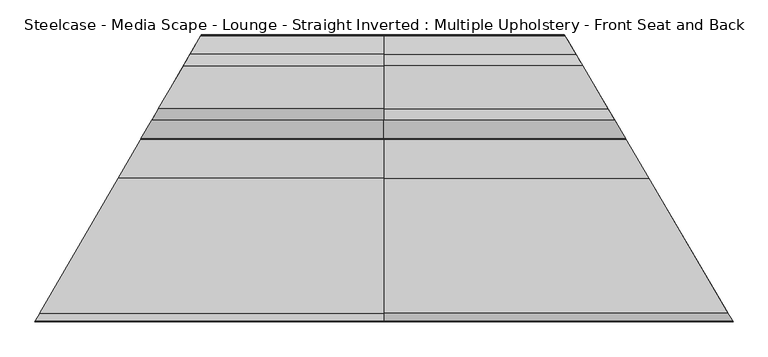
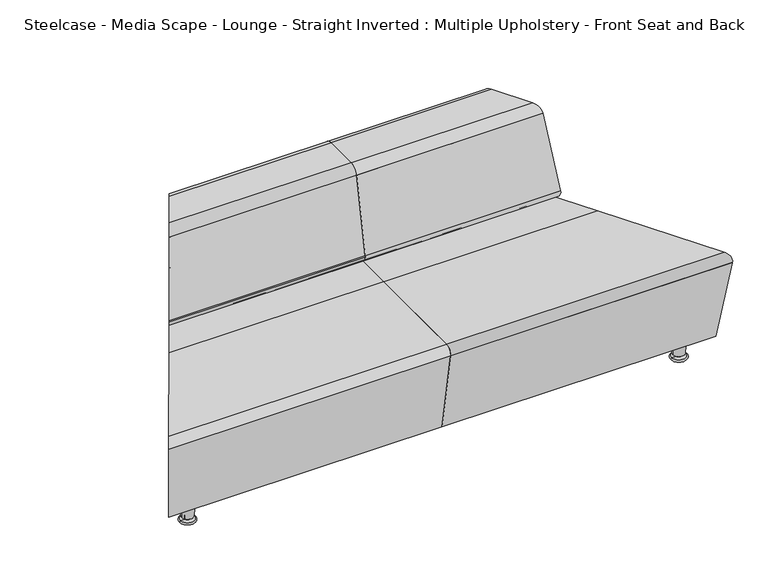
"""IFC4 building model written with IfcOpenShell, lengths in millimetres: furniture geometry, Steelcase - Media Scape - Lounge - Straight Inverted : Multiple Upholstery - Front Seat and Back."""

from ifc_helpers import new_model, si_unit, point, frame, origin, place, context, project, spatial, polyline, circle_curve, ellipse_curve, trimmed, source, transform, mapped, element, save
from ifc_brep_helpers import plane_surface, cylinder_surface, revolved_surface, advanced_brep


def steelcase_media_scape_lounge_straight_inverted_multiple_55383deb(model_context):
    return source(origin(), model_context, "Body", "AdvancedBrep", [
        advanced_brep(
        [(14.5961497, 25.1457946, 404.6983065), (242.0061771, 416.9525328, 404.6983065), (469.4162044, 808.759271, 404.6983065), (483.9506227, 833.8007481, 375.0457281), (0.0617315, 0.1043175, 375.0457281), (1014.6953148, 416.9525328, 404.6983065), (1014.6953148, 25.1457946, 404.6983065), (1014.6953148, 0.1043175, 375.0457281), (1014.6953148, 833.8007481, 375.0457281), (1014.6953148, 808.759271, 404.6983065)],
        [
            (0, 1),
            (1, 2),
            (2, 3, ellipse_curve(frame((469.4162044, 808.759271, 379.2983065), z_axis=(-0.8648758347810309, 0.5019858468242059, 0.0), x_axis=(0.5019858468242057, 0.864875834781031, 0.0)), 29.3683775, 25.4)),
            (3, 4),
            (4, 0, ellipse_curve(frame((14.5961497, 25.1457946, 379.2983065), z_axis=(-0.8648758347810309, 0.5019858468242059, 0.0), x_axis=(0.5019858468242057, 0.864875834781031, 0.0)), 29.3683775, 25.4)),
            (5, 6),
            (6, 7, circle_curve(frame((1014.6953148, 25.1457946, 379.2983065), z_axis=(1.0, 0.0, 0.0), x_axis=(0.0, -1.0, 0.0)), 25.4)),
            (7, 8),
            (8, 9, circle_curve(frame((1014.6953148, 808.759271, 379.2983065), z_axis=(1.0, 0.0, 0.0), x_axis=(0.0, 1.0, 0.0)), 25.4)),
            (9, 5),
            (5, 1),
            (0, 6),
            (4, 7),
            (3, 8),
            (2, 9),
        ],
        [
            plane_surface(frame((-97.2912411, -167.6259759, 763.7516668), z_axis=(-0.8648758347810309, 0.5019858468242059, 0.0), x_axis=(0.0, 0.0, -1.0))),
            plane_surface(frame((1014.6953148, -57.5722485, 404.6983065), z_axis=(1.0, 0.0, 0.0), x_axis=(0.0, -1.0, 0.0))),
            plane_surface(frame((1014.6953148, 416.9525328, 404.6983065), z_axis=(0.0, 0.0, 1.0), x_axis=(-1.0, 0.0, 0.0))),
            cylinder_surface(frame((-12.0270557, 25.1457946, 379.2983065), z_axis=(1.0, 0.0, 0.0), x_axis=(0.0, -1.0, 0.0)), 25.4),
            plane_surface(frame((1014.6953148, 0.1043175, 375.0457281), z_axis=(0.0, 0.0, -1.0), x_axis=(-1.0, 0.0, 0.0))),
            cylinder_surface(frame((-12.0270557, 808.759271, 379.2983065), z_axis=(1.0, 0.0, 0.0), x_axis=(0.0, 1.0, 0.0)), 25.4),
            plane_surface(frame((1014.6953148, 808.759271, 404.6983065), z_axis=(0.0, 0.0, 1.0), x_axis=(-1.0, 0.0, 0.0))),
        ],
        [
            (0, [[1, 2, 3, 4, 5]]),
            (1, [[6, 7, 8, 9, 10]]),
            (2, [[-6, 11, -1, 12]]),
            (3, [[-7, -12, -5, 13]]),
            (4, [[-8, -13, -4, 14]]),
            (5, [[-9, -14, -3, 15]]),
            (6, [[-10, -15, -2, -11]]),
        ],
    ),
        advanced_brep(
        [(1014.6953148, 556.3973372, 404.1903065), (1014.6953148, 531.4780681, 434.5086426), (1014.6953148, 585.386659, 707.6422134), (1014.6953148, 586.4222592, 707.6422134), (1014.6953148, 532.5050909, 434.4651844), (1014.6953148, 556.5535694, 405.2063065), (1014.6953148, 807.0353985, 405.2063065), (1014.6953148, 807.0353985, 404.1903065), (1556.1557205, 807.0353985, 404.1903065), (1703.5521515, 556.3973372, 404.1903065), (1556.1557205, 807.0353985, 405.2063065), (1703.4602737, 556.5535694, 405.2063065), (1717.602818, 532.5050909, 434.4651844), (1685.8949516, 586.4222592, 707.6422134), (1686.5039723, 585.386659, 707.6422134), (1718.2067945, 531.4780681, 434.5086426)],
        [
            (0, 1, circle_curve(frame((1014.6953148, 556.3973372, 429.5903065), z_axis=(-1.0, 0.0, 0.0), x_axis=(0.0, -1.0, 0.0)), 25.4)),
            (1, 2),
            (2, 3),
            (3, 4),
            (4, 5, circle_curve(frame((1014.6953148, 556.5535694, 429.718717), z_axis=(1.0, 0.0, 0.0), x_axis=(0.0, -1.0, 0.0)), 24.5124105)),
            (5, 6),
            (6, 7),
            (7, 0),
            (7, 8),
            (8, 9),
            (9, 0),
            (6, 10),
            (10, 8),
            (5, 11),
            (11, 10),
            (4, 12),
            (12, 11, ellipse_curve(frame((1703.4602737, 556.5535694, 429.718717), z_axis=(0.8619909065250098, 0.5069237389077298, 0.0), x_axis=(-0.5069237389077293, 0.8619909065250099, 0.0)), 28.4369711, 24.5124105)),
            (3, 13),
            (13, 12),
            (2, 14),
            (14, 13),
            (1, 15),
            (15, 14),
            (9, 15, ellipse_curve(frame((1703.5521515, 556.3973372, 429.5903065), z_axis=(-0.8619909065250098, -0.5069237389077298, 0.0), x_axis=(0.5069237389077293, -0.8619909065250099, 0.0)), 29.4666682, 25.4)),
        ],
        [
            plane_surface(frame((1014.6953148, 852.9550656, 404.1903065), z_axis=(-1.0, 0.0, 0.0), x_axis=(0.0, -1.0, 0.0))),
            plane_surface(frame((2041.4176852, 556.3973372, 404.1903065), z_axis=(0.0, 0.0, -1.0), x_axis=(-1.0, 0.0, 0.0))),
            plane_surface(frame((2041.4176852, 807.0353985, 404.1903065), z_axis=(0.0, 1.0, 0.0), x_axis=(-1.0, 0.0, 0.0))),
            plane_surface(frame((2041.4176852, 807.0353985, 405.2063065), z_axis=(0.0, 0.0, 1.0), x_axis=(-1.0, 0.0, 0.0))),
            revolved_surface(polyline([(1014.6953148, 532.0411589, 429.718717), (1717.875649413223, 532.0411589, 429.718717)]), (1014.6953148, 556.5535694, 429.718717), (-1.0, 0.0, 0.0)),
            plane_surface(frame((2041.4176852, 532.5050909, 434.4651844), z_axis=(0.0, 0.9810735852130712, -0.19363527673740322), x_axis=(-1.0, 0.0, 0.0))),
            plane_surface(frame((2041.4176852, 586.4222592, 707.6422134), z_axis=(0.0, 0.0, 1.0), x_axis=(-1.0, 0.0, 0.0))),
            plane_surface(frame((2041.4176852, 585.386659, 707.6422134), z_axis=(0.0, -0.9810735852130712, 0.1936352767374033), x_axis=(-1.0, 0.0, 0.0))),
            cylinder_surface(frame((1014.6953148, 556.3973372, 429.5903065), z_axis=(1.0, 0.0, 0.0), x_axis=(0.0, -1.0, 0.0)), 25.4),
            plane_surface(frame((1493.0162317, 914.4, 763.7516668), z_axis=(0.8619909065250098, 0.5069237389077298, 0.0), x_axis=(0.0, 0.0, -1.0))),
        ],
        [
            (0, [[1, 2, 3, 4, 5, 6, 7, 8]]),
            (1, [[-8, 9, 10, 11]]),
            (2, [[-7, 12, 13, -9]]),
            (3, [[-6, 14, 15, -12]]),
            (4, [[-5, 16, 17, -14]]),
            (5, [[-4, 18, 19, -16]]),
            (6, [[-3, 20, 21, -18]]),
            (7, [[-2, 22, 23, -20]]),
            (8, [[-1, -11, 24, -22]]),
            (9, [[-10, -13, -15, -17, -19, -21, -23, -24]]),
        ],
    ),
        advanced_brep(
        [(1014.6953148, 744.618392, 735.1171206), (1014.6953148, 619.0683436, 735.1171206), (1014.6953148, 585.640659, 707.6422134), (1014.6953148, 531.7822003, 434.7626426), (1014.6953148, 556.7014693, 404.4443065), (1014.6953148, 806.9852663, 404.4443065), (1014.6953148, 831.9045354, 434.7626426), (1014.6953148, 778.0460766, 707.6422134), (451.5898434, 778.0460766, 707.6422134), (432.1879548, 744.618392, 735.1171206), (482.8500347, 831.9045354, 434.7626426), (468.3865477, 806.9852663, 404.4443065), (323.1183847, 556.7014693, 404.4443065), (308.6548977, 531.7822003, 434.7626426), (339.9150889, 585.640659, 707.6422134), (359.3169775, 619.0683436, 735.1171206)],
        [
            (0, 1),
            (1, 2, circle_curve(frame((1014.6953148, 619.0683436, 701.0445646), z_axis=(1.0, 0.0, 0.0), x_axis=(0.0, -1.0, 0.0)), 34.0725559)),
            (2, 3),
            (3, 4, circle_curve(frame((1014.6953148, 556.7014693, 429.8443065), z_axis=(1.0, 0.0, 0.0), x_axis=(0.0, -1.0, 0.0)), 25.4)),
            (4, 5),
            (5, 6, circle_curve(frame((1014.6953148, 806.9852663, 429.8443065), z_axis=(1.0, 0.0, 0.0), x_axis=(0.0, 1.0, 0.0)), 25.4)),
            (6, 7),
            (7, 0, circle_curve(frame((1014.6953148, 744.618392, 701.0445646), z_axis=(1.0, 0.0, 0.0), x_axis=(0.0, 1.0, 0.0)), 34.0725559)),
            (7, 8),
            (8, 9, ellipse_curve(frame((432.1879548, 744.618392, 701.0445646), z_axis=(0.8648758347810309, -0.501985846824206, 0.0), x_axis=(-0.5019858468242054, -0.864875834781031, 0.0)), 39.3958931, 34.0725559)),
            (9, 0),
            (6, 10),
            (10, 8),
            (5, 11),
            (11, 10, ellipse_curve(frame((468.3865477, 806.9852663, 429.8443065), z_axis=(0.8648758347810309, -0.501985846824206, 0.0), x_axis=(-0.5019858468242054, -0.864875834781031, 0.0)), 29.3683775, 25.4)),
            (4, 12),
            (12, 11),
            (3, 13),
            (13, 12, ellipse_curve(frame((323.1183847, 556.7014693, 429.8443065), z_axis=(0.8648758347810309, -0.501985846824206, 0.0), x_axis=(-0.5019858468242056, -0.864875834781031, 0.0)), 29.3683775, 25.4)),
            (2, 14),
            (14, 13),
            (1, 15),
            (15, 14, ellipse_curve(frame((359.3169775, 619.0683436, 701.0445646), z_axis=(0.8648758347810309, -0.501985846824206, 0.0), x_axis=(-0.5019858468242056, -0.864875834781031, 0.0)), 39.3958931, 34.0725559)),
            (9, 15),
        ],
        [
            plane_surface(frame((1014.6953148, 778.690948, 701.0445646), z_axis=(1.0, 0.0, 0.0), x_axis=(0.0, 0.0, 1.0))),
            cylinder_surface(frame((1014.6953148, 744.618392, 701.0445646), z_axis=(-1.0, 0.0, 0.0), x_axis=(0.0, 1.0, 0.0)), 34.0725559),
            plane_surface(frame((0.0, 778.0460766, 707.6422134), z_axis=(0.0, 0.9810735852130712, 0.19363527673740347), x_axis=(1.0, 0.0, 0.0))),
            cylinder_surface(frame((1014.6953148, 806.9852663, 429.8443065), z_axis=(-1.0, 0.0, 0.0), x_axis=(0.0, 1.0, 0.0)), 25.4),
            plane_surface(frame((0.0, 806.9852663, 404.4443065), z_axis=(0.0, 0.0, -1.0), x_axis=(1.0, 0.0, 0.0))),
            cylinder_surface(frame((1014.6953148, 556.7014693, 429.8443065), z_axis=(-1.0, 0.0, 0.0), x_axis=(0.0, -1.0, 0.0)), 25.4),
            plane_surface(frame((0.0, 531.7822003, 434.7626426), z_axis=(0.0, -0.9810735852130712, 0.19363527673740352), x_axis=(1.0, 0.0, 0.0))),
            cylinder_surface(frame((1014.6953148, 619.0683436, 701.0445646), z_axis=(-1.0, 0.0, 0.0), x_axis=(0.0, -1.0, 0.0)), 34.0725559),
            plane_surface(frame((0.0, 619.0683436, 735.1171206), z_axis=(0.0, 0.0, 1.0), x_axis=(1.0, 0.0, 0.0))),
            plane_surface(frame((-97.2912411, -167.6259759, 735.3711206), z_axis=(-0.8648758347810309, 0.501985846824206, 0.0), x_axis=(0.0, 0.0, -1.0))),
        ],
        [
            (0, [[1, 2, 3, 4, 5, 6, 7, 8]]),
            (1, [[-8, 9, 10, 11]]),
            (2, [[-7, 12, 13, -9]]),
            (3, [[-6, 14, 15, -12]]),
            (4, [[-5, 16, 17, -14]]),
            (5, [[-4, 18, 19, -16]]),
            (6, [[-3, 20, 21, -18]]),
            (7, [[-2, 22, 23, -20]]),
            (8, [[-1, -11, 24, -22]]),
            (9, [[-10, -13, -15, -17, -19, -21, -23, -24]]),
        ],
    ),
        advanced_brep(
        [(1014.6953148, 556.3973372, 404.1903065), (1014.6953148, 807.0353985, 404.1903065), (1014.6953148, 807.0353985, 405.2063065), (1014.6953148, 556.5535694, 405.2063065), (1014.6953148, 532.5050909, 434.4651844), (1014.6953148, 586.4222592, 707.6422134), (1014.6953148, 585.386659, 707.6422134), (1014.6953148, 531.4780681, 434.5086426), (308.4783752, 531.4780681, 434.5086426), (322.9418621, 556.3973372, 404.1903065), (339.7676638, 585.386659, 707.6422134), (340.3687405, 586.4222592, 707.6422134), (309.0744734, 532.5050909, 434.4651844), (323.0325415, 556.5535694, 405.2063065), (468.4156451, 807.0353985, 405.2063065), (468.4156451, 807.0353985, 404.1903065)],
        [
            (0, 1),
            (1, 2),
            (2, 3),
            (3, 4, circle_curve(frame((1014.6953148, 556.5535694, 429.718717), z_axis=(-1.0, 0.0, 0.0), x_axis=(0.0, -1.0, 0.0)), 24.5124105)),
            (4, 5),
            (5, 6),
            (6, 7),
            (7, 0, circle_curve(frame((1014.6953148, 556.3973372, 429.5903065), z_axis=(1.0, 0.0, 0.0), x_axis=(0.0, -1.0, 0.0)), 25.4)),
            (7, 8),
            (8, 9, ellipse_curve(frame((322.9418621, 556.3973372, 429.5903065), z_axis=(0.8648758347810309, -0.5019858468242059, 0.0), x_axis=(-0.5019858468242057, -0.864875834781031, 0.0)), 29.3683775, 25.4)),
            (9, 0),
            (6, 10),
            (10, 8),
            (5, 11),
            (11, 10),
            (4, 12),
            (12, 11),
            (3, 13),
            (13, 12, ellipse_curve(frame((323.0325415, 556.5535694, 429.718717), z_axis=(-0.8648758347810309, 0.5019858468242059, 0.0), x_axis=(0.5019858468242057, 0.864875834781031, 0.0)), 28.3421152, 24.5124105)),
            (2, 14),
            (14, 13),
            (1, 15),
            (15, 14),
            (9, 15),
        ],
        [
            plane_surface(frame((1014.6953148, 530.9973372, 429.5903065), z_axis=(1.0, 0.0, 0.0), x_axis=(0.0, 0.0, -1.0))),
            cylinder_surface(frame((1014.6953148, 556.3973372, 429.5903065), z_axis=(-1.0, 0.0, 0.0), x_axis=(0.0, -1.0, 0.0)), 25.4),
            plane_surface(frame((0.0, 531.4780681, 434.5086426), z_axis=(0.0, -0.9810735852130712, 0.1936352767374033), x_axis=(1.0, 0.0, 0.0))),
            plane_surface(frame((0.0, 585.386659, 707.6422134), z_axis=(0.0, 0.0, 1.0), x_axis=(1.0, 0.0, 0.0))),
            plane_surface(frame((0.0, 586.4222592, 707.6422134), z_axis=(0.0, 0.9810735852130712, -0.19363527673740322), x_axis=(1.0, 0.0, 0.0))),
            revolved_surface(polyline([(1014.6953148, 532.0411589, 429.718717), (308.80520080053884, 532.0411589, 429.718717)]), (1014.6953148, 556.5535694, 429.718717), (1.0, 0.0, 0.0)),
            plane_surface(frame((0.0, 556.5535694, 405.2063065), z_axis=(0.0, 0.0, 1.0), x_axis=(1.0, 0.0, 0.0))),
            plane_surface(frame((0.0, 807.0353985, 405.2063065), z_axis=(0.0, 1.0, 0.0), x_axis=(1.0, 0.0, 0.0))),
            plane_surface(frame((0.0, 807.0353985, 404.1903065), z_axis=(0.0, 0.0, -1.0), x_axis=(1.0, 0.0, 0.0))),
            plane_surface(frame((-97.2912411, -167.6259759, 763.7516668), z_axis=(-0.8648758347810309, 0.5019858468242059, 0.0), x_axis=(0.0, 0.0, -1.0))),
        ],
        [
            (0, [[1, 2, 3, 4, 5, 6, 7, 8]]),
            (1, [[-8, 9, 10, 11]]),
            (2, [[-7, 12, 13, -9]]),
            (3, [[-6, 14, 15, -12]]),
            (4, [[-5, 16, 17, -14]]),
            (5, [[-4, 18, 19, -16]]),
            (6, [[-3, 20, 21, -18]]),
            (7, [[-2, 22, 23, -20]]),
            (8, [[-1, -11, 24, -22]]),
            (9, [[-10, -13, -15, -17, -19, -21, -23, -24]]),
        ],
    ),
        advanced_brep(
        [(1014.6953148, 416.9525328, 404.6983065), (1014.6953148, 808.759271, 404.6983065), (1014.6953148, 833.8007481, 375.0457281), (1014.6953148, 0.1043175, 375.0457281), (1014.6953148, 25.1457946, 404.6983065), (1785.5575196, 416.9525328, 404.6983065), (1555.1419373, 808.759271, 404.6983065), (1540.4154256, 833.8007481, 375.0457281), (2030.6996136, 0.1043175, 375.0457281), (2015.9731019, 25.1457946, 404.6983065)],
        [
            (0, 1),
            (1, 2, circle_curve(frame((1014.6953148, 808.759271, 379.2983065), z_axis=(-1.0, 0.0, 0.0), x_axis=(0.0, 1.0, 0.0)), 25.4)),
            (2, 3),
            (3, 4, circle_curve(frame((1014.6953148, 25.1457946, 379.2983065), z_axis=(-1.0, 0.0, 0.0), x_axis=(0.0, -1.0, 0.0)), 25.4)),
            (4, 0),
            (0, 5),
            (5, 6),
            (6, 1),
            (6, 7, ellipse_curve(frame((1555.1419373, 808.759271, 379.2983065), z_axis=(-0.8619909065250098, -0.5069237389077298, 0.0), x_axis=(-0.5069237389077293, 0.86199090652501, 0.0)), 29.4666682, 25.4)),
            (7, 2),
            (7, 8),
            (8, 3),
            (8, 9, ellipse_curve(frame((2015.9731019, 25.1457946, 379.2983065), z_axis=(-0.8619909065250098, -0.5069237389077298, 0.0), x_axis=(-0.5069237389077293, 0.86199090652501, 0.0)), 29.4666682, 25.4)),
            (9, 4),
            (9, 5),
        ],
        [
            plane_surface(frame((1014.6953148, 891.4773142, 404.6983065), z_axis=(-1.0, 0.0, 0.0), x_axis=(0.0, 1.0, 0.0))),
            plane_surface(frame((1014.6953148, 416.9525328, 404.6983065), z_axis=(0.0, 0.0, 1.0), x_axis=(1.0, 0.0, 0.0))),
            cylinder_surface(frame((2041.4176852, 808.759271, 379.2983065), z_axis=(-1.0, 0.0, 0.0), x_axis=(0.0, 1.0, 0.0)), 25.4),
            plane_surface(frame((1014.6953148, 833.8007481, 375.0457281), z_axis=(0.0, 0.0, -1.0), x_axis=(1.0, 0.0, 0.0))),
            cylinder_surface(frame((2041.4176852, 25.1457946, 379.2983065), z_axis=(-1.0, 0.0, 0.0), x_axis=(0.0, -1.0, 0.0)), 25.4),
            plane_surface(frame((1014.6953148, 25.1457946, 404.6983065), z_axis=(0.0, 0.0, 1.0), x_axis=(1.0, 0.0, 0.0))),
            plane_surface(frame((1493.0162317, 914.4, 763.7516668), z_axis=(0.8619909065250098, 0.5069237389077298, 0.0), x_axis=(0.0, 0.0, -1.0))),
        ],
        [
            (0, [[1, 2, 3, 4, 5]]),
            (1, [[-1, 6, 7, 8]]),
            (2, [[-2, -8, 9, 10]]),
            (3, [[-3, -10, 11, 12]]),
            (4, [[-4, -12, 13, 14]]),
            (5, [[-5, -14, 15, -6]]),
            (6, [[-7, -15, -13, -11, -9]]),
        ],
    ),
        advanced_brep(
        [(1014.6953148, 744.618392, 735.1171206), (1014.6953148, 778.0460766, 707.6422134), (1014.6953148, 831.9045354, 434.7626426), (1014.6953148, 806.9852663, 404.4443065), (1014.6953148, 556.7014693, 404.4443065), (1014.6953148, 531.7822003, 434.7626426), (1014.6953148, 585.640659, 707.6422134), (1014.6953148, 619.0683436, 735.1171206), (1666.696286, 619.0683436, 735.1171206), (1592.8622125, 744.618392, 735.1171206), (1686.3545988, 585.640659, 707.6422134), (1718.027939, 531.7822003, 434.7626426), (1703.373296, 556.7014693, 404.4443065), (1556.1852025, 806.9852663, 404.4443065), (1541.5305594, 831.9045354, 434.7626426), (1573.2038997, 778.0460766, 707.6422134)],
        [
            (0, 1, circle_curve(frame((1014.6953148, 744.618392, 701.0445646), z_axis=(-1.0, 0.0, 0.0), x_axis=(0.0, 1.0, 0.0)), 34.0725559)),
            (1, 2),
            (2, 3, circle_curve(frame((1014.6953148, 806.9852663, 429.8443065), z_axis=(-1.0, 0.0, 0.0), x_axis=(0.0, 1.0, 0.0)), 25.4)),
            (3, 4),
            (4, 5, circle_curve(frame((1014.6953148, 556.7014693, 429.8443065), z_axis=(-1.0, 0.0, 0.0), x_axis=(0.0, -1.0, 0.0)), 25.4)),
            (5, 6),
            (6, 7, circle_curve(frame((1014.6953148, 619.0683436, 701.0445646), z_axis=(-1.0, 0.0, 0.0), x_axis=(0.0, -1.0, 0.0)), 34.0725559)),
            (7, 0),
            (7, 8),
            (8, 9),
            (9, 0),
            (6, 10),
            (10, 8, ellipse_curve(frame((1666.696286, 619.0683436, 701.0445646), z_axis=(-0.8619909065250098, -0.5069237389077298, 0.0), x_axis=(0.5069237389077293, -0.8619909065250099, 0.0)), 39.5277441, 34.0725559)),
            (5, 11),
            (11, 10),
            (4, 12),
            (12, 11, ellipse_curve(frame((1703.373296, 556.7014693, 429.8443065), z_axis=(-0.8619909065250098, -0.5069237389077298, 0.0), x_axis=(0.5069237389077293, -0.8619909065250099, 0.0)), 29.4666682, 25.4)),
            (3, 13),
            (13, 12),
            (2, 14),
            (14, 13, ellipse_curve(frame((1556.1852025, 806.9852663, 429.8443065), z_axis=(-0.8619909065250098, -0.5069237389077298, 0.0), x_axis=(0.5069237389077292, -0.8619909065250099, 0.0)), 29.4666682, 25.4)),
            (1, 15),
            (15, 14),
            (9, 15, ellipse_curve(frame((1592.8622125, 744.618392, 701.0445646), z_axis=(-0.8619909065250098, -0.5069237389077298, 0.0), x_axis=(0.5069237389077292, -0.8619909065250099, 0.0)), 39.5277441, 34.0725559)),
        ],
        [
            plane_surface(frame((1014.6953148, 567.2050656, 735.1171206), z_axis=(-1.0, 0.0, 0.0), x_axis=(0.0, 1.0, 0.0))),
            plane_surface(frame((2041.4176852, 744.618392, 735.1171206), z_axis=(0.0, 0.0, 1.0), x_axis=(-1.0, 0.0, 0.0))),
            cylinder_surface(frame((1014.6953148, 619.0683436, 701.0445646), z_axis=(1.0, 0.0, 0.0), x_axis=(0.0, -1.0, 0.0)), 34.0725559),
            plane_surface(frame((2041.4176852, 585.640659, 707.6422134), z_axis=(0.0, -0.9810735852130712, 0.19363527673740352), x_axis=(-1.0, 0.0, 0.0))),
            cylinder_surface(frame((1014.6953148, 556.7014693, 429.8443065), z_axis=(1.0, 0.0, 0.0), x_axis=(0.0, -1.0, 0.0)), 25.4),
            plane_surface(frame((2041.4176852, 556.7014693, 404.4443065), z_axis=(0.0, 0.0, -1.0), x_axis=(-1.0, 0.0, 0.0))),
            cylinder_surface(frame((1014.6953148, 806.9852663, 429.8443065), z_axis=(1.0, 0.0, 0.0), x_axis=(0.0, 1.0, 0.0)), 25.4),
            plane_surface(frame((2041.4176852, 831.9045354, 434.7626426), z_axis=(0.0, 0.9810735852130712, 0.19363527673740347), x_axis=(-1.0, 0.0, 0.0))),
            cylinder_surface(frame((1014.6953148, 744.618392, 701.0445646), z_axis=(1.0, 0.0, 0.0), x_axis=(0.0, 1.0, 0.0)), 34.0725559),
            plane_surface(frame((1493.0162317, 914.4, 763.7516668), z_axis=(0.8619909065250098, 0.5069237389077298, 0.0), x_axis=(0.0, 0.0, -1.0))),
        ],
        [
            (0, [[1, 2, 3, 4, 5, 6, 7, 8]]),
            (1, [[-8, 9, 10, 11]]),
            (2, [[-7, 12, 13, -9]]),
            (3, [[-6, 14, 15, -12]]),
            (4, [[-5, 16, 17, -14]]),
            (5, [[-4, 18, 19, -16]]),
            (6, [[-3, 20, 21, -18]]),
            (7, [[-2, 22, 23, -20]]),
            (8, [[-1, -11, 24, -22]]),
            (9, [[-10, -13, -15, -17, -19, -21, -23, -24]]),
        ],
    ),
        advanced_brep(
        [(1014.6953148, 416.9525328, 404.4443065), (1014.6953148, 808.4584998, 404.4443065), (1014.6953148, 833.4999769, 374.7917281), (1014.6953148, 782.5280351, 74.6414242), (1014.6953148, 416.9525328, 74.6414242), (1014.6953148, 51.3770305, 74.6414242), (1014.6953148, 0.4050887, 374.7917281), (1014.6953148, 25.4465658, 404.4443065), (1785.5575196, 416.9525328, 404.4443065), (1555.3188163, 808.4584998, 404.4443065), (1540.5923045, 833.4999769, 374.7917281), (1570.5681281, 782.5280351, 74.6414242), (1785.5575196, 416.9525328, 74.6414242), (2000.5469111, 51.3770305, 74.6414242), (2030.5227347, 0.4050887, 374.7917281), (2015.7962229, 25.4465658, 404.4443065)],
        [
            (0, 1),
            (1, 2, circle_curve(frame((1014.6953148, 808.4584998, 379.0443065), z_axis=(-1.0, 0.0, 0.0), x_axis=(0.0, 1.0, 0.0)), 25.4)),
            (2, 3),
            (3, 4),
            (4, 5),
            (5, 6),
            (6, 7, circle_curve(frame((1014.6953148, 25.4465658, 379.0443065), z_axis=(-1.0, 0.0, 0.0), x_axis=(0.0, -1.0, 0.0)), 25.4)),
            (7, 0),
            (0, 8),
            (8, 9),
            (9, 1),
            (9, 10, ellipse_curve(frame((1555.3188163, 808.4584998, 379.0443065), z_axis=(-0.8619909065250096, -0.5069237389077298, 0.0), x_axis=(-0.5069237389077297, 0.8619909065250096, 0.0)), 29.4666682, 25.4)),
            (10, 2),
            (10, 11),
            (11, 3),
            (11, 12),
            (12, 4),
            (12, 13),
            (13, 5),
            (13, 14),
            (14, 6),
            (14, 15, ellipse_curve(frame((2015.7962229, 25.4465658, 379.0443065), z_axis=(-0.8619909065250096, -0.5069237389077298, 0.0), x_axis=(-0.5069237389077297, 0.8619909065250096, 0.0)), 29.4666682, 25.4)),
            (15, 7),
            (15, 8),
        ],
        [
            plane_surface(frame((1014.6953148, 891.4773142, 404.4443065), z_axis=(-1.0, 0.0, 0.0), x_axis=(0.0, 1.0, 0.0))),
            plane_surface(frame((1014.6953148, 416.9525328, 404.4443065), z_axis=(0.0, 0.0, 1.0), x_axis=(1.0, 0.0, 0.0))),
            cylinder_surface(frame((2041.4176852, 808.4584998, 379.0443065), z_axis=(-1.0, 0.0, 0.0), x_axis=(0.0, 1.0, 0.0)), 25.4),
            plane_surface(frame((1014.6953148, 833.4999769, 374.7917281), z_axis=(0.0, 0.9858849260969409, -0.1674243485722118), x_axis=(1.0, 0.0, 0.0))),
            plane_surface(frame((1014.6953148, 782.5280351, 74.6414242), z_axis=(0.0, 0.0, -1.0), x_axis=(1.0, 0.0, 0.0))),
            plane_surface(frame((1014.6953148, 416.9525328, 74.6414242), z_axis=(0.0, 0.0, -1.0), x_axis=(1.0, 0.0, 0.0))),
            plane_surface(frame((1014.6953148, 51.3770305, 74.6414242), z_axis=(0.0, -0.9858849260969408, -0.16742434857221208), x_axis=(1.0, 0.0, 0.0))),
            cylinder_surface(frame((2041.4176852, 25.4465658, 379.0443065), z_axis=(-1.0, 0.0, 0.0), x_axis=(0.0, -1.0, 0.0)), 25.4),
            plane_surface(frame((1014.6953148, 25.4465658, 404.4443065), z_axis=(0.0, 0.0, 1.0), x_axis=(1.0, 0.0, 0.0))),
            plane_surface(frame((1493.0162317, 914.4, 735.3711206), z_axis=(0.8619909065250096, 0.5069237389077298, 0.0), x_axis=(0.0, 0.0, -1.0))),
        ],
        [
            (0, [[1, 2, 3, 4, 5, 6, 7, 8]]),
            (1, [[-1, 9, 10, 11]]),
            (2, [[-2, -11, 12, 13]]),
            (3, [[-3, -13, 14, 15]]),
            (4, [[-4, -15, 16, 17]]),
            (5, [[-5, -17, 18, 19]]),
            (6, [[-6, -19, 20, 21]]),
            (7, [[-7, -21, 22, 23]]),
            (8, [[-8, -23, 24, -9]]),
            (9, [[-10, -24, -22, -20, -18, -16, -14, -12]]),
        ],
    ),
        advanced_brep(
        [(1014.6953148, 416.9525328, 404.4443065), (1014.6953148, 25.4465658, 404.4443065), (1014.6953148, 0.4050887, 374.7917281), (1014.6953148, 51.3770305, 74.6414242), (1014.6953148, 416.9525328, 74.6414242), (1014.6953148, 782.5280351, 74.6414242), (1014.6953148, 833.4999769, 374.7917281), (1014.6953148, 808.4584998, 404.4443065), (242.0061771, 416.9525328, 404.4443065), (14.7707214, 25.4465658, 404.4443065), (0.2363032, 0.4050887, 374.7917281), (29.8211203, 51.3770305, 74.6414242), (242.0061771, 416.9525328, 74.6414242), (454.1912338, 782.5280351, 74.6414242), (483.7760509, 833.4999769, 374.7917281), (469.2416327, 808.4584998, 404.4443065)],
        [
            (0, 1),
            (1, 2, circle_curve(frame((1014.6953148, 25.4465658, 379.0443065), z_axis=(1.0, 0.0, 0.0), x_axis=(0.0, -1.0, 0.0)), 25.4)),
            (2, 3),
            (3, 4),
            (4, 5),
            (5, 6),
            (6, 7, circle_curve(frame((1014.6953148, 808.4584998, 379.0443065), z_axis=(1.0, 0.0, 0.0), x_axis=(0.0, 1.0, 0.0)), 25.4)),
            (7, 0),
            (0, 8),
            (8, 9),
            (9, 1),
            (9, 10, ellipse_curve(frame((14.7707214, 25.4465658, 379.0443065), z_axis=(0.8648758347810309, -0.501985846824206, 0.0), x_axis=(0.5019858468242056, 0.864875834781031, 0.0)), 29.3683775, 25.4)),
            (10, 2),
            (10, 11),
            (11, 3),
            (11, 12),
            (12, 4),
            (12, 13),
            (13, 5),
            (13, 14),
            (14, 6),
            (14, 15, ellipse_curve(frame((469.2416327, 808.4584998, 379.0443065), z_axis=(0.8648758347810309, -0.501985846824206, 0.0), x_axis=(0.5019858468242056, 0.864875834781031, 0.0)), 29.3683775, 25.4)),
            (15, 7),
            (15, 8),
        ],
        [
            plane_surface(frame((1014.6953148, -57.5722485, 404.4443065), z_axis=(1.0, 0.0, 0.0), x_axis=(0.0, -1.0, 0.0))),
            plane_surface(frame((1014.6953148, 416.9525328, 404.4443065), z_axis=(0.0, 0.0, 1.0), x_axis=(-1.0, 0.0, 0.0))),
            cylinder_surface(frame((0.0, 25.4465658, 379.0443065), z_axis=(1.0, 0.0, 0.0), x_axis=(0.0, -1.0, 0.0)), 25.4),
            plane_surface(frame((1014.6953148, 0.4050887, 374.7917281), z_axis=(0.0, -0.9858849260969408, -0.16742434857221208), x_axis=(-1.0, 0.0, 0.0))),
            plane_surface(frame((1014.6953148, 51.3770305, 74.6414242), z_axis=(0.0, 0.0, -1.0), x_axis=(-1.0, 0.0, 0.0))),
            plane_surface(frame((1014.6953148, 416.9525328, 74.6414242), z_axis=(0.0, 0.0, -1.0), x_axis=(-1.0, 0.0, 0.0))),
            plane_surface(frame((1014.6953148, 782.5280351, 74.6414242), z_axis=(0.0, 0.9858849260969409, -0.1674243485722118), x_axis=(-1.0, 0.0, 0.0))),
            cylinder_surface(frame((0.0, 808.4584998, 379.0443065), z_axis=(1.0, 0.0, 0.0), x_axis=(0.0, 1.0, 0.0)), 25.4),
            plane_surface(frame((1014.6953148, 808.4584998, 404.4443065), z_axis=(0.0, 0.0, 1.0), x_axis=(-1.0, 0.0, 0.0))),
            plane_surface(frame((-97.2912411, -167.6259759, 735.3711206), z_axis=(-0.8648758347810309, 0.501985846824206, 0.0), x_axis=(0.0, 0.0, -1.0))),
        ],
        [
            (0, [[1, 2, 3, 4, 5, 6, 7, 8]]),
            (1, [[-1, 9, 10, 11]]),
            (2, [[-2, -11, 12, 13]]),
            (3, [[-3, -13, 14, 15]]),
            (4, [[-4, -15, 16, 17]]),
            (5, [[-5, -17, 18, 19]]),
            (6, [[-6, -19, 20, 21]]),
            (7, [[-7, -21, 22, 23]]),
            (8, [[-8, -23, 24, -9]]),
            (9, [[-10, -24, -22, -20, -18, -16, -14, -12]]),
        ],
    ),
        advanced_brep(
        [(1545.570234, 722.5255264, 74.1561731), (1569.3571541, 722.5255264, 74.1561731), (1521.7833138, 722.5255264, 74.1561731), (1519.5165917, 722.5255264, 0.0), (1571.6238762, 722.5255264, 0.0), (1545.570234, 722.5255264, 0.0), (1519.5165917, 722.5255264, 6.3788302), (1571.6238762, 722.5255264, 6.3788302), (1536.045234, 722.5255264, 6.3788302), (1555.095234, 722.5255264, 6.3788302), (1536.045234, 722.5255264, 17.057519), (1555.095234, 722.5255264, 17.057519), (1524.6151177, 722.5255264, 17.057519), (1566.5253502, 722.5255264, 17.057519)],
        [
            (0, 1),
            (1, 2, circle_curve(frame((1545.570234, 722.5255264, 74.1561731), z_axis=(0.0, 0.0, 1.0), x_axis=(1.0, 0.0, 0.0)), 23.7869202)),
            (2, 0),
            (2, 1, circle_curve(frame((1545.570234, 722.5255264, 74.1561731), z_axis=(0.0, 0.0, 1.0), x_axis=(1.0, 0.0, 0.0)), 23.7869202)),
            (3, 4, circle_curve(frame((1545.570234, 722.5255264, 0.0), z_axis=(0.0, 0.0, -1.0), x_axis=(1.0, 0.0, 0.0)), 26.0536423)),
            (4, 5),
            (5, 3),
            (4, 3, circle_curve(frame((1545.570234, 722.5255264, 0.0), z_axis=(0.0, 0.0, -1.0), x_axis=(1.0, 0.0, 0.0)), 26.0536423)),
            (6, 7, circle_curve(frame((1545.570234, 722.5255264, 6.3788302), z_axis=(0.0, 0.0, -1.0), x_axis=(1.0, 0.0, 0.0)), 26.0536423)),
            (7, 4, circle_curve(frame((1571.6238762, 722.5255264, 3.1894151), z_axis=(0.0, 1.0, 0.0), x_axis=(1.0, 0.0, 0.0)), 3.1894151)),
            (3, 6, circle_curve(frame((1519.5165917, 722.5255264, 3.1894151), z_axis=(0.0, 1.0, 0.0), x_axis=(-1.0, 0.0, 0.0)), 3.1894151)),
            (7, 6, circle_curve(frame((1545.570234, 722.5255264, 6.3788302), z_axis=(0.0, 0.0, -1.0), x_axis=(1.0, 0.0, 0.0)), 26.0536423)),
            (8, 9, circle_curve(frame((1545.570234, 722.5255264, 6.3788302), z_axis=(0.0, 0.0, -1.0), x_axis=(1.0, 0.0, 0.0)), 9.525)),
            (9, 7),
            (6, 8),
            (9, 8, circle_curve(frame((1545.570234, 722.5255264, 6.3788302), z_axis=(0.0, 0.0, -1.0), x_axis=(1.0, 0.0, 0.0)), 9.525)),
            (10, 11, circle_curve(frame((1545.570234, 722.5255264, 17.057519), z_axis=(0.0, 0.0, -1.0), x_axis=(1.0, 0.0, 0.0)), 9.525)),
            (11, 9),
            (8, 10),
            (11, 10, circle_curve(frame((1545.570234, 722.5255264, 17.057519), z_axis=(0.0, 0.0, -1.0), x_axis=(1.0, 0.0, 0.0)), 9.525)),
            (12, 13, circle_curve(frame((1545.570234, 722.5255264, 17.057519), z_axis=(0.0, 0.0, -1.0), x_axis=(1.0, 0.0, 0.0)), 20.9551163)),
            (13, 11),
            (10, 12),
            (13, 12, circle_curve(frame((1545.570234, 722.5255264, 17.057519), z_axis=(0.0, 0.0, -1.0), x_axis=(1.0, 0.0, 0.0)), 20.9551163)),
            (1, 13),
            (12, 2),
        ],
        [
            plane_surface(frame((1545.570234, 722.5255264, 74.1561731), z_axis=(0.0, 0.0, 1.0), x_axis=(1.0, 0.0, 0.0))),
            plane_surface(frame((1545.570234, 722.5255264, 0.0), z_axis=(0.0, 0.0, -1.0), x_axis=(1.0, 0.0, 0.0))),
            revolved_surface(trimmed(ellipse_curve(frame((1571.6238762, 722.5255264, 3.1894151), z_axis=(0.0, -1.0, 0.0), x_axis=(1.0, 0.0, 0.0)), 3.1894151, 3.1894151), [point((1571.6238762, 722.5255264, 0.0))], [point((1571.6238762, 722.5255264, 6.3788302))], True, "CARTESIAN"), (1545.570234, 722.5255264, 61.4561731), (0.0, 0.0, 1.0)),
            plane_surface(frame((1545.570234, 722.5255264, 6.3788302), z_axis=(0.0, 0.0, 1.0), x_axis=(1.0, 0.0, 0.0))),
            cylinder_surface(frame((1545.570234, 722.5255264, 61.4561731), z_axis=(0.0, 0.0, 1.0), x_axis=(1.0, 0.0, 0.0)), 9.525),
            plane_surface(frame((1545.570234, 722.5255264, 17.057519), z_axis=(0.0, 0.0, -1.0), x_axis=(1.0, 0.0, 0.0))),
            revolved_surface(polyline([(1566.5253502, 722.5255264, 17.057519), (1569.3571541, 722.5255264, 74.1561731)]), (1545.570234, 722.5255264, 61.4561731), (0.0, 0.0, 1.0)),
        ],
        [
            (0, [[1, 2, 3]]),
            (0, [[-3, 4, -1]]),
            (1, [[5, 6, 7]]),
            (1, [[8, -7, -6]]),
            (2, [[9, 10, -5, 11]]),
            (2, [[12, -11, -8, -10]]),
            (3, [[13, 14, -9, 15]]),
            (3, [[16, -15, -12, -14]]),
            (4, [[17, 18, -13, 19]]),
            (4, [[20, -19, -16, -18]]),
            (5, [[21, 22, -17, 23]]),
            (5, [[24, -23, -20, -22]]),
            (6, [[-2, 25, -21, 26]]),
            (6, [[-4, -26, -24, -25]]),
        ],
    ),
        advanced_brep(
        [(1896.0976754, 102.3340218, 74.1561731), (1919.8845955, 102.3340218, 74.1561731), (1872.3107552, 102.3340218, 74.1561731), (1870.0440331, 102.3340218, 0.0), (1922.1513176, 102.3340218, 0.0), (1896.0976754, 102.3340218, 0.0), (1870.0440331, 102.3340218, 6.3788302), (1922.1513176, 102.3340218, 6.3788302), (1886.5726754, 102.3340218, 6.3788302), (1905.6226754, 102.3340218, 6.3788302), (1886.5726754, 102.3340218, 17.057519), (1905.6226754, 102.3340218, 17.057519), (1875.1425591, 102.3340218, 17.057519), (1917.0527916, 102.3340218, 17.057519)],
        [
            (0, 1),
            (1, 2, circle_curve(frame((1896.0976754, 102.3340218, 74.1561731), z_axis=(0.0, 0.0, 1.0), x_axis=(1.0, 0.0, 0.0)), 23.7869202)),
            (2, 0),
            (2, 1, circle_curve(frame((1896.0976754, 102.3340218, 74.1561731), z_axis=(0.0, 0.0, 1.0), x_axis=(1.0, 0.0, 0.0)), 23.7869202)),
            (3, 4, circle_curve(frame((1896.0976754, 102.3340218, 0.0), z_axis=(0.0, 0.0, -1.0), x_axis=(1.0, 0.0, 0.0)), 26.0536423)),
            (4, 5),
            (5, 3),
            (4, 3, circle_curve(frame((1896.0976754, 102.3340218, 0.0), z_axis=(0.0, 0.0, -1.0), x_axis=(1.0, 0.0, 0.0)), 26.0536423)),
            (6, 7, circle_curve(frame((1896.0976754, 102.3340218, 6.3788302), z_axis=(0.0, 0.0, -1.0), x_axis=(1.0, 0.0, 0.0)), 26.0536423)),
            (7, 4, circle_curve(frame((1922.1513176, 102.3340218, 3.1894151), z_axis=(0.0, 1.0, 0.0), x_axis=(1.0, 0.0, 0.0)), 3.1894151)),
            (3, 6, circle_curve(frame((1870.0440331, 102.3340218, 3.1894151), z_axis=(0.0, 1.0, 0.0), x_axis=(-1.0, 0.0, 0.0)), 3.1894151)),
            (7, 6, circle_curve(frame((1896.0976754, 102.3340218, 6.3788302), z_axis=(0.0, 0.0, -1.0), x_axis=(1.0, 0.0, 0.0)), 26.0536423)),
            (8, 9, circle_curve(frame((1896.0976754, 102.3340218, 6.3788302), z_axis=(0.0, 0.0, -1.0), x_axis=(1.0, 0.0, 0.0)), 9.525)),
            (9, 7),
            (6, 8),
            (9, 8, circle_curve(frame((1896.0976754, 102.3340218, 6.3788302), z_axis=(0.0, 0.0, -1.0), x_axis=(1.0, 0.0, 0.0)), 9.525)),
            (10, 11, circle_curve(frame((1896.0976754, 102.3340218, 17.057519), z_axis=(0.0, 0.0, -1.0), x_axis=(1.0, 0.0, 0.0)), 9.525)),
            (11, 9),
            (8, 10),
            (11, 10, circle_curve(frame((1896.0976754, 102.3340218, 17.057519), z_axis=(0.0, 0.0, -1.0), x_axis=(1.0, 0.0, 0.0)), 9.525)),
            (12, 13, circle_curve(frame((1896.0976754, 102.3340218, 17.057519), z_axis=(0.0, 0.0, -1.0), x_axis=(1.0, 0.0, 0.0)), 20.9551163)),
            (13, 11),
            (10, 12),
            (13, 12, circle_curve(frame((1896.0976754, 102.3340218, 17.057519), z_axis=(0.0, 0.0, -1.0), x_axis=(1.0, 0.0, 0.0)), 20.9551163)),
            (1, 13),
            (12, 2),
        ],
        [
            plane_surface(frame((1896.0976754, 102.3340218, 74.1561731), z_axis=(0.0, 0.0, 1.0), x_axis=(1.0, 0.0, 0.0))),
            plane_surface(frame((1896.0976754, 102.3340218, 0.0), z_axis=(0.0, 0.0, -1.0), x_axis=(1.0, 0.0, 0.0))),
            revolved_surface(trimmed(ellipse_curve(frame((1922.1513176, 102.3340218, 3.1894151), z_axis=(0.0, -1.0, 0.0), x_axis=(1.0, 0.0, 0.0)), 3.1894151, 3.1894151), [point((1922.1513176, 102.3340218, 0.0))], [point((1922.1513176, 102.3340218, 6.3788302))], True, "CARTESIAN"), (1896.0976754, 102.3340218, 61.4561731), (0.0, 0.0, 1.0)),
            plane_surface(frame((1896.0976754, 102.3340218, 6.3788302), z_axis=(0.0, 0.0, 1.0), x_axis=(1.0, 0.0, 0.0))),
            cylinder_surface(frame((1896.0976754, 102.3340218, 61.4561731), z_axis=(0.0, 0.0, 1.0), x_axis=(1.0, 0.0, 0.0)), 9.525),
            plane_surface(frame((1896.0976754, 102.3340218, 17.057519), z_axis=(0.0, 0.0, -1.0), x_axis=(1.0, 0.0, 0.0))),
            revolved_surface(polyline([(1917.0527916, 102.3340218, 17.057519), (1919.8845955, 102.3340218, 74.1561731)]), (1896.0976754, 102.3340218, 61.4561731), (0.0, 0.0, 1.0)),
        ],
        [
            (0, [[1, 2, 3]]),
            (0, [[-3, 4, -1]]),
            (1, [[5, 6, 7]]),
            (1, [[8, -7, -6]]),
            (2, [[9, 10, -5, 11]]),
            (2, [[12, -11, -8, -10]]),
            (3, [[13, 14, -9, 15]]),
            (3, [[16, -15, -12, -14]]),
            (4, [[17, 18, -13, 19]]),
            (4, [[20, -19, -16, -18]]),
            (5, [[21, 22, -17, 23]]),
            (5, [[24, -23, -20, -22]]),
            (6, [[-2, 25, -21, 26]]),
            (6, [[-4, -26, -24, -25]]),
        ],
    ),
        advanced_brep(
        [(126.8093937, 102.277914, 74.1561731), (150.5963139, 102.277914, 74.1561731), (103.0224736, 102.277914, 74.1561731), (100.7557515, 102.277914, 0.0), (152.863036, 102.277914, 0.0), (126.8093937, 102.277914, 0.0), (100.7557515, 102.277914, 6.3788302), (152.863036, 102.277914, 6.3788302), (117.2843937, 102.277914, 6.3788302), (136.3343937, 102.277914, 6.3788302), (117.2843937, 102.277914, 17.057519), (136.3343937, 102.277914, 17.057519), (105.8542775, 102.277914, 17.057519), (147.76451, 102.277914, 17.057519)],
        [
            (0, 1),
            (1, 2, circle_curve(frame((126.8093937, 102.277914, 74.1561731), z_axis=(0.0, 0.0, 1.0), x_axis=(1.0, 0.0, 0.0)), 23.7869202)),
            (2, 0),
            (2, 1, circle_curve(frame((126.8093937, 102.277914, 74.1561731), z_axis=(0.0, 0.0, 1.0), x_axis=(1.0, 0.0, 0.0)), 23.7869202)),
            (3, 4, circle_curve(frame((126.8093937, 102.277914, 0.0), z_axis=(0.0, 0.0, -1.0), x_axis=(1.0, 0.0, 0.0)), 26.0536423)),
            (4, 5),
            (5, 3),
            (4, 3, circle_curve(frame((126.8093937, 102.277914, 0.0), z_axis=(0.0, 0.0, -1.0), x_axis=(1.0, 0.0, 0.0)), 26.0536423)),
            (6, 7, circle_curve(frame((126.8093937, 102.277914, 6.3788302), z_axis=(0.0, 0.0, -1.0), x_axis=(1.0, 0.0, 0.0)), 26.0536423)),
            (7, 4, circle_curve(frame((152.863036, 102.277914, 3.1894151), z_axis=(0.0, 1.0, 0.0), x_axis=(1.0, 0.0, 0.0)), 3.1894151)),
            (3, 6, circle_curve(frame((100.7557515, 102.277914, 3.1894151), z_axis=(0.0, 1.0, 0.0), x_axis=(-1.0, 0.0, 0.0)), 3.1894151)),
            (7, 6, circle_curve(frame((126.8093937, 102.277914, 6.3788302), z_axis=(0.0, 0.0, -1.0), x_axis=(1.0, 0.0, 0.0)), 26.0536423)),
            (8, 9, circle_curve(frame((126.8093937, 102.277914, 6.3788302), z_axis=(0.0, 0.0, -1.0), x_axis=(1.0, 0.0, 0.0)), 9.525)),
            (9, 7),
            (6, 8),
            (9, 8, circle_curve(frame((126.8093937, 102.277914, 6.3788302), z_axis=(0.0, 0.0, -1.0), x_axis=(1.0, 0.0, 0.0)), 9.525)),
            (10, 11, circle_curve(frame((126.8093937, 102.277914, 17.057519), z_axis=(0.0, 0.0, -1.0), x_axis=(1.0, 0.0, 0.0)), 9.525)),
            (11, 9),
            (8, 10),
            (11, 10, circle_curve(frame((126.8093937, 102.277914, 17.057519), z_axis=(0.0, 0.0, -1.0), x_axis=(1.0, 0.0, 0.0)), 9.525)),
            (12, 13, circle_curve(frame((126.8093937, 102.277914, 17.057519), z_axis=(0.0, 0.0, -1.0), x_axis=(1.0, 0.0, 0.0)), 20.9551163)),
            (13, 11),
            (10, 12),
            (13, 12, circle_curve(frame((126.8093937, 102.277914, 17.057519), z_axis=(0.0, 0.0, -1.0), x_axis=(1.0, 0.0, 0.0)), 20.9551163)),
            (1, 13),
            (12, 2),
        ],
        [
            plane_surface(frame((126.8093937, 102.277914, 74.1561731), z_axis=(0.0, 0.0, 1.0), x_axis=(1.0, 0.0, 0.0))),
            plane_surface(frame((126.8093937, 102.277914, 0.0), z_axis=(0.0, 0.0, -1.0), x_axis=(1.0, 0.0, 0.0))),
            revolved_surface(trimmed(ellipse_curve(frame((152.863036, 102.277914, 3.1894151), z_axis=(0.0, -1.0, 0.0), x_axis=(1.0, 0.0, 0.0)), 3.1894151, 3.1894151), [point((152.863036, 102.277914, 0.0))], [point((152.863036, 102.277914, 6.3788302))], True, "CARTESIAN"), (126.8093937, 102.277914, 61.4561731), (0.0, 0.0, 1.0)),
            plane_surface(frame((126.8093937, 102.277914, 6.3788302), z_axis=(0.0, 0.0, 1.0), x_axis=(1.0, 0.0, 0.0))),
            cylinder_surface(frame((126.8093937, 102.277914, 61.4561731), z_axis=(0.0, 0.0, 1.0), x_axis=(1.0, 0.0, 0.0)), 9.525),
            plane_surface(frame((126.8093937, 102.277914, 17.057519), z_axis=(0.0, 0.0, -1.0), x_axis=(1.0, 0.0, 0.0))),
            revolved_surface(polyline([(147.76451, 102.277914, 17.057519), (150.5963139, 102.277914, 74.1561731)]), (126.8093937, 102.277914, 61.4561731), (0.0, 0.0, 1.0)),
        ],
        [
            (0, [[1, 2, 3]]),
            (0, [[-3, 4, -1]]),
            (1, [[5, 6, 7]]),
            (1, [[8, -7, -6]]),
            (2, [[9, 10, -5, 11]]),
            (2, [[12, -11, -8, -10]]),
            (3, [[13, 14, -9, 15]]),
            (3, [[16, -15, -12, -14]]),
            (4, [[17, 18, -13, 19]]),
            (4, [[20, -19, -16, -18]]),
            (5, [[21, 22, -17, 23]]),
            (5, [[24, -23, -20, -22]]),
            (6, [[-2, 25, -21, 26]]),
            (6, [[-4, -26, -24, -25]]),
        ],
    ),
        advanced_brep(
        [(477.8028512, 722.5255264, 74.1561731), (501.5897713, 722.5255264, 74.1561731), (454.015931, 722.5255264, 74.1561731), (451.7492089, 722.5255264, 0.0), (503.8564934, 722.5255264, 0.0), (477.8028512, 722.5255264, 0.0), (451.7492089, 722.5255264, 6.3788302), (503.8564934, 722.5255264, 6.3788302), (468.2778512, 722.5255264, 6.3788302), (487.3278512, 722.5255264, 6.3788302), (468.2778512, 722.5255264, 17.057519), (487.3278512, 722.5255264, 17.057519), (456.8477349, 722.5255264, 17.057519), (498.7579674, 722.5255264, 17.057519)],
        [
            (0, 1),
            (1, 2, circle_curve(frame((477.8028512, 722.5255264, 74.1561731), z_axis=(0.0, 0.0, 1.0), x_axis=(1.0, 0.0, 0.0)), 23.7869202)),
            (2, 0),
            (2, 1, circle_curve(frame((477.8028512, 722.5255264, 74.1561731), z_axis=(0.0, 0.0, 1.0), x_axis=(1.0, 0.0, 0.0)), 23.7869202)),
            (3, 4, circle_curve(frame((477.8028512, 722.5255264, 0.0), z_axis=(0.0, 0.0, -1.0), x_axis=(1.0, 0.0, 0.0)), 26.0536423)),
            (4, 5),
            (5, 3),
            (4, 3, circle_curve(frame((477.8028512, 722.5255264, 0.0), z_axis=(0.0, 0.0, -1.0), x_axis=(1.0, 0.0, 0.0)), 26.0536423)),
            (6, 7, circle_curve(frame((477.8028512, 722.5255264, 6.3788302), z_axis=(0.0, 0.0, -1.0), x_axis=(1.0, 0.0, 0.0)), 26.0536423)),
            (7, 4, circle_curve(frame((503.8564934, 722.5255264, 3.1894151), z_axis=(0.0, 1.0, 0.0), x_axis=(1.0, 0.0, 0.0)), 3.1894151)),
            (3, 6, circle_curve(frame((451.7492089, 722.5255264, 3.1894151), z_axis=(0.0, 1.0, 0.0), x_axis=(-1.0, 0.0, 0.0)), 3.1894151)),
            (7, 6, circle_curve(frame((477.8028512, 722.5255264, 6.3788302), z_axis=(0.0, 0.0, -1.0), x_axis=(1.0, 0.0, 0.0)), 26.0536423)),
            (8, 9, circle_curve(frame((477.8028512, 722.5255264, 6.3788302), z_axis=(0.0, 0.0, -1.0), x_axis=(1.0, 0.0, 0.0)), 9.525)),
            (9, 7),
            (6, 8),
            (9, 8, circle_curve(frame((477.8028512, 722.5255264, 6.3788302), z_axis=(0.0, 0.0, -1.0), x_axis=(1.0, 0.0, 0.0)), 9.525)),
            (10, 11, circle_curve(frame((477.8028512, 722.5255264, 17.057519), z_axis=(0.0, 0.0, -1.0), x_axis=(1.0, 0.0, 0.0)), 9.525)),
            (11, 9),
            (8, 10),
            (11, 10, circle_curve(frame((477.8028512, 722.5255264, 17.057519), z_axis=(0.0, 0.0, -1.0), x_axis=(1.0, 0.0, 0.0)), 9.525)),
            (12, 13, circle_curve(frame((477.8028512, 722.5255264, 17.057519), z_axis=(0.0, 0.0, -1.0), x_axis=(1.0, 0.0, 0.0)), 20.9551163)),
            (13, 11),
            (10, 12),
            (13, 12, circle_curve(frame((477.8028512, 722.5255264, 17.057519), z_axis=(0.0, 0.0, -1.0), x_axis=(1.0, 0.0, 0.0)), 20.9551163)),
            (1, 13),
            (12, 2),
        ],
        [
            plane_surface(frame((477.8028512, 722.5255264, 74.1561731), z_axis=(0.0, 0.0, 1.0), x_axis=(1.0, 0.0, 0.0))),
            plane_surface(frame((477.8028512, 722.5255264, 0.0), z_axis=(0.0, 0.0, -1.0), x_axis=(1.0, 0.0, 0.0))),
            revolved_surface(trimmed(ellipse_curve(frame((503.8564934, 722.5255264, 3.1894151), z_axis=(0.0, -1.0, 0.0), x_axis=(1.0, 0.0, 0.0)), 3.1894151, 3.1894151), [point((503.8564934, 722.5255264, 0.0))], [point((503.8564934, 722.5255264, 6.3788302))], True, "CARTESIAN"), (477.8028512, 722.5255264, 61.4561731), (0.0, 0.0, 1.0)),
            plane_surface(frame((477.8028512, 722.5255264, 6.3788302), z_axis=(0.0, 0.0, 1.0), x_axis=(1.0, 0.0, 0.0))),
            cylinder_surface(frame((477.8028512, 722.5255264, 61.4561731), z_axis=(0.0, 0.0, 1.0), x_axis=(1.0, 0.0, 0.0)), 9.525),
            plane_surface(frame((477.8028512, 722.5255264, 17.057519), z_axis=(0.0, 0.0, -1.0), x_axis=(1.0, 0.0, 0.0))),
            revolved_surface(polyline([(498.7579674, 722.5255264, 17.057519), (501.5897713, 722.5255264, 74.1561731)]), (477.8028512, 722.5255264, 61.4561731), (0.0, 0.0, 1.0)),
        ],
        [
            (0, [[1, 2, 3]]),
            (0, [[-3, 4, -1]]),
            (1, [[5, 6, 7]]),
            (1, [[8, -7, -6]]),
            (2, [[9, 10, -5, 11]]),
            (2, [[12, -11, -8, -10]]),
            (3, [[13, 14, -9, 15]]),
            (3, [[16, -15, -12, -14]]),
            (4, [[17, 18, -13, 19]]),
            (4, [[20, -19, -16, -18]]),
            (5, [[21, 22, -17, 23]]),
            (5, [[24, -23, -20, -22]]),
            (6, [[-2, 25, -21, 26]]),
            (6, [[-4, -26, -24, -25]]),
        ],
    ),
    ])


if __name__ == "__main__":
    model = new_model("IFC4")
    model_context = context("Model", 3, world=origin())
    ifc_project = project(units=[si_unit("LENGTHUNIT", "METRE", prefix="MILLI")], contexts=[model_context])
    site = spatial("IfcSite", under=ifc_project)
    building = spatial("IfcBuilding", under=site)
    placement = place(None, origin())
    steelcase_media_scape_lounge_straight_inverted_multiple_shape = steelcase_media_scape_lounge_straight_inverted_multiple_55383deb(model_context)
    element("IfcFurniture", 1, ObjectType="Steelcase - Media Scape - Lounge - Straight Inverted : Multiple Upholstery - Front Seat and Back", at=placement, inside=building, context=model_context, shape_type="MappedRepresentation", body=[
        mapped(steelcase_media_scape_lounge_straight_inverted_multiple_shape, transform((0.0, 0.0, 0.0), x_axis=(1.0, 0.0, 0.0), y_axis=(0.0, 1.0, 0.0), z_axis=(0.0, 0.0, 1.0))),
    ])
    save(model, "model.ifc")
